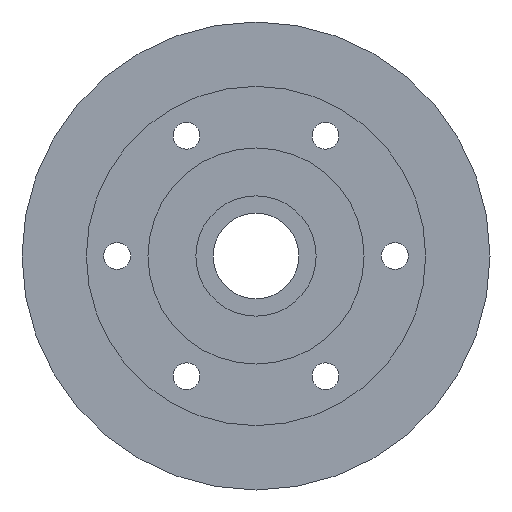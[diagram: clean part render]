
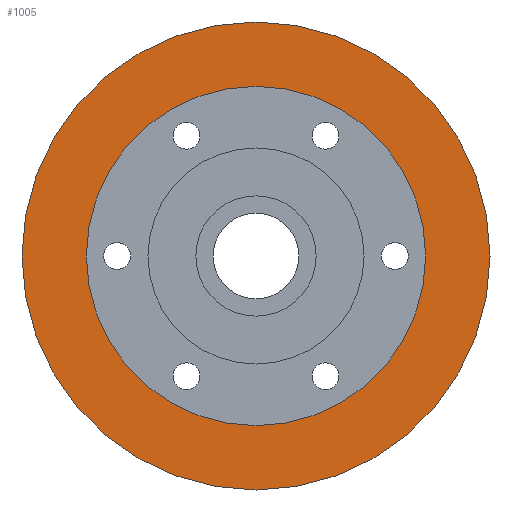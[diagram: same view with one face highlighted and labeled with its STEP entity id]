
A CAD part, front view. The second image highlights one B-rep face of the part: STEP entity #1005.
In plain terms, the highlighted planar face has unit normal (0, -1, 0).
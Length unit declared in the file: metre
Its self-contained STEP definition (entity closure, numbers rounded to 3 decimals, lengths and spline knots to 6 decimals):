
#258=ORIENTED_EDGE('',*,*,#520,.F.);
#259=ORIENTED_EDGE('',*,*,#521,.T.);
#520=EDGE_CURVE('',#652,#652,#748,.T.);
#521=EDGE_CURVE('',#653,#653,#749,.T.);
#652=VERTEX_POINT('',#1475);
#653=VERTEX_POINT('',#1477);
#748=CIRCLE('',#1095,0.031032);
#749=CIRCLE('',#1096,0.042798);
#774=EDGE_LOOP('',(#258));
#775=EDGE_LOOP('',(#259));
#870=FACE_BOUND('',#774,.T.);
#871=FACE_BOUND('',#775,.T.);
#950=PLANE('',#1094);
#1005=ADVANCED_FACE('',(#870,#871),#950,.F.);
#1094=AXIS2_PLACEMENT_3D('',#1473,#1205,#1206);
#1095=AXIS2_PLACEMENT_3D('',#1474,#1207,#1208);
#1096=AXIS2_PLACEMENT_3D('',#1476,#1209,#1210);
#1205=DIRECTION('',(0.,1.,0.));
#1206=DIRECTION('',(0.,0.,1.));
#1207=DIRECTION('',(0.,-1.,0.));
#1208=DIRECTION('',(0.,0.,-1.));
#1209=DIRECTION('',(0.,-1.,0.));
#1210=DIRECTION('',(0.,0.,-1.));
#1473=CARTESIAN_POINT('',(0.,-0.0122,-0.024898));
#1474=CARTESIAN_POINT('',(0.,-0.0122,0.));
#1475=CARTESIAN_POINT('',(0.,-0.0122,-0.031032));
#1476=CARTESIAN_POINT('',(0.,-0.0122,0.));
#1477=CARTESIAN_POINT('',(0.,-0.0122,-0.042798));
